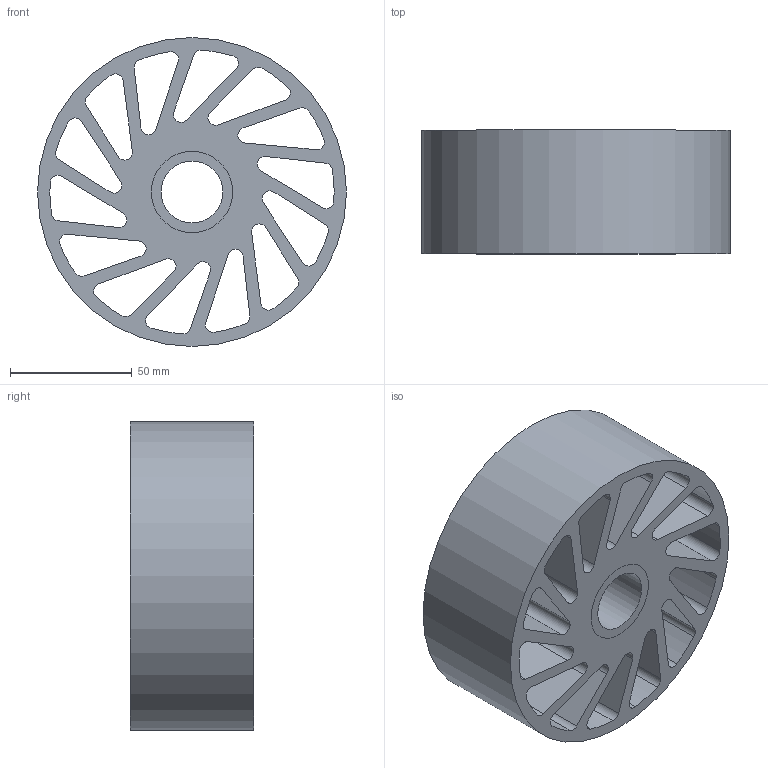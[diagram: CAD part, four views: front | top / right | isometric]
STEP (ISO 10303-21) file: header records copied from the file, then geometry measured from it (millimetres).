
FILE_DESCRIPTION(/* description */ (''),/* implementation_level */ '2;1');
FILE_NAME(/* name */ 'C:\Users\Owner\Desktop\Meridian Stuff\Oilite\NCWOB-530-XXX.stp',/* time_stamp */ '2023-05-22T17:10:02-05:00',/* author */ ('ASG'),/* organization */ ('Meridian Laboratory '),/* preprocessor_version */ 'ST-DEVELOPER v19',/* originating_system */ 'Autodesk Inventor 2023',/* authorisation */ '');
FILE_SCHEMA (('AUTOMOTIVE_DESIGN { 1 0 10303 214 3 1 1 }'));
Length unit declared in the file: inch
Products named in the file (1): NCWOB-440-XXX
Bounding box: 127 x 50.8 x 127 mm (x, y, z)
Volume: 334990.6 mm3; surface area: 109662 mm2
Topology: 2 solids, 2 shells, 92 faces, 264 edges, 176 vertices
Faces by surface type: cylinder 60, plane 32
Full cylindrical faces by diameter (mm): 25.451 x1, 33.337 x2, 127 x1
Entity records: 3285 total; most frequent: DIRECTION 570, CARTESIAN_POINT 533, ORIENTED_EDGE 528, EDGE_CURVE 264, AXIS2_PLACEMENT_3D 213, VERTEX_POINT 176, LINE 144, VECTOR 144
